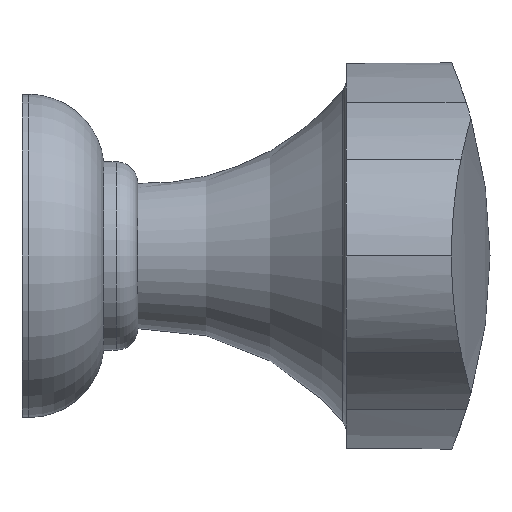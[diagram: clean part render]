
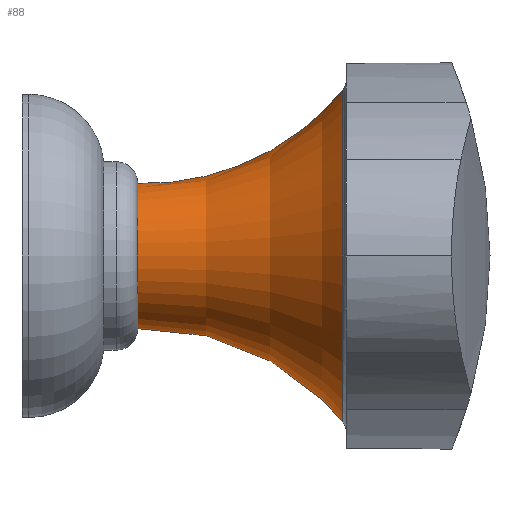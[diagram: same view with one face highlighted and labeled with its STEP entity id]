
A CAD part, left-side view. The second image highlights one B-rep face of the part: STEP entity #88.
In plain terms, the highlighted toroidal (fillet/blend) face has major radius 19.258 mm and minor radius 15 mm.
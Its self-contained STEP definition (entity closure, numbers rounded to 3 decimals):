
#88 = ADVANCED_FACE( '', ( #181, #182 ), #183, .F. );
#181 = FACE_OUTER_BOUND( '', #280, .T. );
#182 = FACE_OUTER_BOUND( '', #281, .T. );
#183 = TOROIDAL_SURFACE( '', #282, 19.258, 15. );
#280 = EDGE_LOOP( '', ( #406 ) );
#281 = EDGE_LOOP( '', ( #407 ) );
#282 = AXIS2_PLACEMENT_3D( '', #408, #409, #410 );
#406 = ORIENTED_EDGE( '', *, *, #551, .F. );
#407 = ORIENTED_EDGE( '', *, *, #566, .T. );
#408 = CARTESIAN_POINT( '', ( 0., -7.248, 0. ) );
#409 = DIRECTION( '', ( 0., 1., 0. ) );
#410 = DIRECTION( '', ( 0., 0., 1. ) );
#551 = EDGE_CURVE( '', #637, #637, #638, .T. );
#566 = EDGE_CURVE( '', #660, #660, #661, .T. );
#637 = VERTEX_POINT( '', #745 );
#638 = CIRCLE( '', #746, 4.265 );
#660 = VERTEX_POINT( '', #805 );
#661 = CIRCLE( '', #806, 9.716 );
#745 = CARTESIAN_POINT( '', ( 0., -6.8, 4.265 ) );
#746 = AXIS2_PLACEMENT_3D( '', #1015, #1016, #1017 );
#805 = CARTESIAN_POINT( '', ( 0., -18.821, 9.716 ) );
#806 = AXIS2_PLACEMENT_3D( '', #1026, #1027, #1028 );
#1015 = CARTESIAN_POINT( '', ( 0., -6.8, 0. ) );
#1016 = DIRECTION( '', ( 0., 1., 0. ) );
#1017 = DIRECTION( '', ( 0., 0., 1. ) );
#1026 = CARTESIAN_POINT( '', ( 0., -18.821, 0. ) );
#1027 = DIRECTION( '', ( 0., 1., 0. ) );
#1028 = DIRECTION( '', ( 0., 0., 1. ) );
